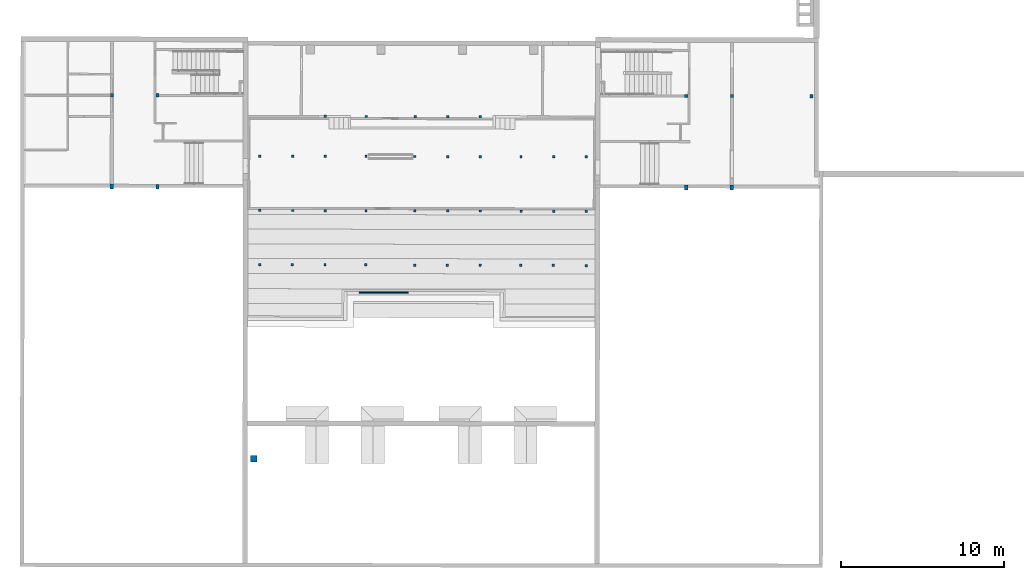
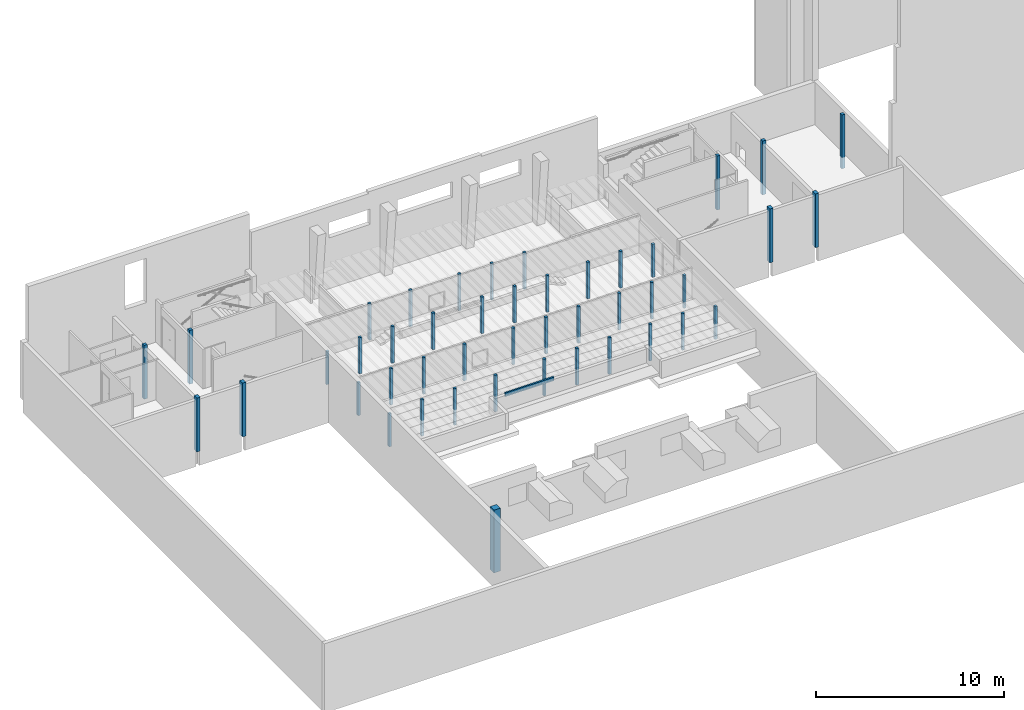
# One storey, part 1 of 24: 45 columns, 1 beam.
"""IFC2X3 building model written with IfcOpenShell, lengths in metres."""

from ifc_helpers import new_model, entity, si_unit, converted_unit, derived_unit, direction, frame, frame_2d, origin, origin_2d_with_axis, place, context, subcontext, project, spatial, rectangle, extrude, source, transform, mapped, material, type_object, type_shapes, element, save


model = new_model("IFC2X3")

# Units and contexts
model_context = context("Model", 3, precision=1e-05, world=origin(), true_north=direction((6.123233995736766e-17, 1.0)))
body_context = subcontext(model_context, "Body", "Model", "MODEL_VIEW")
ifc_project = project(units=[si_unit("LENGTHUNIT", "METRE"), si_unit("AREAUNIT", "SQUARE_METRE"), converted_unit("PLANEANGLEUNIT", "DEGREE", entity("IfcPlaneAngleMeasure", 0.017453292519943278), si_unit("PLANEANGLEUNIT", "RADIAN"), dimensions=[0, 0, 0, 0, 0, 0, 0]), derived_unit("THERMALTRANSMITTANCEUNIT", [(si_unit("MASSUNIT", "GRAM", prefix="KILO"), 1), (si_unit("THERMODYNAMICTEMPERATUREUNIT", "KELVIN"), -1), (si_unit("TIMEUNIT", "SECOND"), -3)])], contexts=[model_context])

# Site, building, storey
site_placement = place(None, frame((1253.6752467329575, 2072.143113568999, 91.49999999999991), z_axis=(0.0, 0.0, 1.0), x_axis=(0.7237211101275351, 0.6900925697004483, 0.0)))
site = spatial("IfcSite", under=ifc_project, at=site_placement, Name="Surface", CompositionType="ELEMENT")
building_placement = place(site_placement, origin())
building = spatial("IfcBuilding", under=site, at=building_placement, CompositionType="ELEMENT")
storey_placement = place(building_placement, frame((0.0, 0.0, -7.049999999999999)))
storey = spatial("IfcBuildingStorey", under=building, at=storey_placement, Name="R-1", CompositionType="ELEMENT", Elevation=-7.049999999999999)

# Columns
ifc_material_1 = material(Name="<Unnamed>")
column_type_1 = type_object("IfcColumnType", Name="ART-Béton-Poteau rectangulaire:20X20", PredefinedType="COLUMN", material=ifc_material_1)
shared_shape_1 = source(origin(), body_context, "Body", "SweptSolid", [
    extrude(rectangle(XDim=0.1999999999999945, YDim=0.20000000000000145, at=frame_2d((1.2871648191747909e-14, 1.1601830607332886e-14), x_axis=(1.0, 0.0))), frame((198.74440040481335, -8.334362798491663, -7.049999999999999), z_axis=(0.0, 0.0, 1.0), x_axis=(-0.721921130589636, 0.6919753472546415, 0.0)), (0.0, 0.0, 1.0), 3.4999999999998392),
])
type_shapes(column_type_1, [shared_shape_1])
column_1_placement = place(storey_placement, frame((0.0, 0.0, 7.049999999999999)))
element("IfcColumn", 1, at=column_1_placement, inside=storey, type_object=column_type_1, material=ifc_material_1, Name="ART-Béton-Poteau rectangulaire:20X20", ObjectType="ART-Béton-Poteau rectangulaire:20X20", context=body_context, shape_type="MappedRepresentation", body=[
    mapped(shared_shape_1, transform((0.0, 0.0, 0.0), scale=1.0)),
])
column_type_2 = type_object("IfcColumnType", Name="ART-Béton-Poteau rectangulaire:20X20", PredefinedType="COLUMN", material=ifc_material_1)
shared_shape_2 = source(origin(), body_context, "Body", "SweptSolid", [
    extrude(rectangle(XDim=0.2000000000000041, YDim=0.19999999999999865, at=frame_2d((1.8735013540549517e-16, -1.942890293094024e-16), x_axis=(1.0, 0.0))), frame((193.19998534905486, -3.0347104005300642, -7.049999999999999), z_axis=(0.0, 0.0, 1.0), x_axis=(-0.7228702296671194, 0.6909838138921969, 0.0)), (0.0, 0.0, 1.0), 3.4999999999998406),
])
type_shapes(column_type_2, [shared_shape_2])
column_2_placement = place(storey_placement, frame((0.0, 0.0, 7.049999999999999)))
element("IfcColumn", 2, at=column_2_placement, inside=storey, type_object=column_type_2, material=ifc_material_1, Name="ART-Béton-Poteau rectangulaire:20X20", ObjectType="ART-Béton-Poteau rectangulaire:20X20", context=body_context, shape_type="MappedRepresentation", body=[
    mapped(shared_shape_2, transform((0.0, 0.0, 0.0), scale=1.0)),
])
column_type_3 = type_object("IfcColumnType", Name="ART-Béton-Poteau rectangulaire:20X20", PredefinedType="COLUMN", material=ifc_material_1)
shared_shape_3 = source(origin(), body_context, "Body", "SweptSolid", [
    extrude(rectangle(XDim=0.20000000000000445, YDim=0.19999999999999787, at=origin_2d_with_axis()), frame((195.2240219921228, -4.9694650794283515, -7.049999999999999), z_axis=(0.0, 0.0, 1.0), x_axis=(-0.722870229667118, 0.6909838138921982, 0.0)), (0.0, 0.0, 1.0), 3.4999999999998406),
])
type_shapes(column_type_3, [shared_shape_3])
column_3_placement = place(storey_placement, frame((0.0, 0.0, 7.049999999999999)))
element("IfcColumn", 3, at=column_3_placement, inside=storey, type_object=column_type_3, material=ifc_material_1, Name="ART-Béton-Poteau rectangulaire:20X20", ObjectType="ART-Béton-Poteau rectangulaire:20X20", context=body_context, shape_type="MappedRepresentation", body=[
    mapped(shared_shape_3, transform((0.0, 0.0, 0.0), scale=1.0)),
])
column_type_4 = type_object("IfcColumnType", Name="ART-Béton-Poteau rectangulaire:20X30", PredefinedType="COLUMN", material=ifc_material_1)
shared_shape_4 = source(origin(), body_context, "Body", "SweptSolid", [
    extrude(rectangle(XDim=0.20000000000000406, YDim=0.3000000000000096, at=origin_2d_with_axis()), frame((189.33047599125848, -7.082783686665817, -7.049999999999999), z_axis=(0.0, 0.0, 1.0), x_axis=(-0.7228702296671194, 0.6909838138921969, 0.0)), (0.0, 0.0, 1.0), 3.4999999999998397),
])
type_shapes(column_type_4, [shared_shape_4])
column_4_placement = place(storey_placement, frame((0.0, 0.0, 7.049999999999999)))
element("IfcColumn", 4, at=column_4_placement, inside=storey, type_object=column_type_4, material=ifc_material_1, Name="ART-Béton-Poteau rectangulaire:20X30", ObjectType="ART-Béton-Poteau rectangulaire:20X30", context=body_context, shape_type="MappedRepresentation", body=[
    mapped(shared_shape_4, transform((0.0, 0.0, 0.0), scale=1.0)),
])
column_type_5 = type_object("IfcColumnType", Name="ART-Béton-Poteau rectangulaire:20X30", PredefinedType="COLUMN", material=ifc_material_1)
shared_shape_5 = source(origin(), body_context, "Body", "SweptSolid", [
    extrude(rectangle(XDim=0.20000000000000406, YDim=0.3000000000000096, at=origin_2d_with_axis()), frame((191.35451263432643, -9.017538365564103, -7.049999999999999), z_axis=(0.0, 0.0, 1.0), x_axis=(-0.7228702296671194, 0.6909838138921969, 0.0)), (0.0, 0.0, 1.0), 3.4999999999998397),
])
type_shapes(column_type_5, [shared_shape_5])
column_5_placement = place(storey_placement, frame((0.0, 0.0, 7.049999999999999)))
element("IfcColumn", 5, at=column_5_placement, inside=storey, type_object=column_type_5, material=ifc_material_1, Name="ART-Béton-Poteau rectangulaire:20X30", ObjectType="ART-Béton-Poteau rectangulaire:20X30", context=body_context, shape_type="MappedRepresentation", body=[
    mapped(shared_shape_5, transform((0.0, 0.0, 0.0), scale=1.0)),
])
column_type_6 = type_object("IfcColumnType", Name="ART-Béton-Poteau rectangulaire:40x40", PredefinedType="COLUMN", material=ifc_material_1)
shared_shape_6 = source(origin(), body_context, "Body", "SweptSolid", [
    extrude(rectangle(XDim=0.40000000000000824, YDim=0.3999999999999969, at=frame_2d((8.326672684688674e-17, -8.326672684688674e-17), x_axis=(1.0, 0.0))), frame((158.67348923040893, -0.8323143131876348, -7.7799999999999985), z_axis=(0.0, 0.0, 1.0), x_axis=(-0.7228702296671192, 0.690983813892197, 0.0)), (0.0, 0.0, 1.0), 4.079999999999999),
])
type_shapes(column_type_6, [shared_shape_6])
column_6_placement = place(storey_placement, frame((0.0, 0.0, 7.049999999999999)))
element("IfcColumn", 6, at=column_6_placement, inside=storey, type_object=column_type_6, material=ifc_material_1, Name="ART-Béton-Poteau rectangulaire:40x40", ObjectType="ART-Béton-Poteau rectangulaire:40x40", context=body_context, shape_type="MappedRepresentation", body=[
    mapped(shared_shape_6, transform((0.0, 0.0, 0.0), scale=1.0)),
])
column_type_7 = type_object("IfcColumnType", Name="ART-Béton-Poteau rectangulaire:20X20", PredefinedType="COLUMN", material=ifc_material_1)
shared_shape_7 = source(origin(), body_context, "Body", "SweptSolid", [
    extrude(rectangle(XDim=0.20000000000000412, YDim=0.1999999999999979, at=origin_2d_with_axis()), frame((169.77794912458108, 19.35335111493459, -7.049999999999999), z_axis=(0.0, 0.0, 1.0), x_axis=(-0.7228702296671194, 0.6909838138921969, 0.0)), (0.0, 0.0, 1.0), 3.4999999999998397),
])
type_shapes(column_type_7, [shared_shape_7])
column_7_placement = place(storey_placement, frame((0.0, 0.0, 7.049999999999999)))
element("IfcColumn", 7, at=column_7_placement, inside=storey, type_object=column_type_7, material=ifc_material_1, Name="ART-Béton-Poteau rectangulaire:20X20", ObjectType="ART-Béton-Poteau rectangulaire:20X20", context=body_context, shape_type="MappedRepresentation", body=[
    mapped(shared_shape_7, transform((0.0, 0.0, 0.0), scale=1.0)),
])
column_type_8 = type_object("IfcColumnType", Name="ART-Béton-Poteau rectangulaire:20X30", PredefinedType="COLUMN", material=ifc_material_1)
shared_shape_8 = source(origin(), body_context, "Body", "SweptSolid", [
    extrude(rectangle(XDim=0.19999999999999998, YDim=0.2999999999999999, at=origin_2d_with_axis()), frame((0.0, 0.0, -7.049999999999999), z_axis=(0.0, 0.0, 1.0), x_axis=(-1.0, 0.0, 0.0)), (0.0, 0.0, 1.0), 3.4999999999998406),
])
type_shapes(column_type_8, [shared_shape_8])
for number, where, z_axis, x_axis in (
    (8, (163.88544390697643, 17.239846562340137, 7.049999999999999), (0.0, 0.0, 1.0), (0.7228702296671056, -0.6909838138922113, 0.0)),
    (9, (165.90948055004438, 15.305091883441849, 7.049999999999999), (0.0, 0.0, 1.0), (0.7228702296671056, -0.6909838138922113, 0.0)),
):
    element("IfcColumn", number, at=place(storey_placement, frame(where, z_axis=z_axis, x_axis=x_axis)), inside=storey, type_object=column_type_8, material=ifc_material_1, Name="ART-Béton-Poteau rectangulaire:20X30", ObjectType="ART-Béton-Poteau rectangulaire:20X30", context=body_context, shape_type="MappedRepresentation", body=[
        mapped(shared_shape_8, transform((0.0, 0.0, 0.0), scale=1.0)),
    ])
column_type_9 = type_object("IfcColumnType", Name="ART-Béton-Poteau rectangulaire:20X20", PredefinedType="COLUMN", material=ifc_material_1)
shared_shape_9 = source(origin(), body_context, "Body", "SweptSolid", [
    extrude(rectangle(XDim=0.20000000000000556, YDim=0.19999999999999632, at=origin_2d_with_axis()), frame((167.75495790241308, 21.287919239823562, -7.049999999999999), z_axis=(0.0, 0.0, 1.0), x_axis=(-0.7228702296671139, 0.6909838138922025, 0.0)), (0.0, 0.0, 1.0), 3.4999999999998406),
])
type_shapes(column_type_9, [shared_shape_9])
column_8_placement = place(storey_placement, frame((0.0, 0.0, 7.049999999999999)))
element("IfcColumn", 10, at=column_8_placement, inside=storey, type_object=column_type_9, material=ifc_material_1, Name="ART-Béton-Poteau rectangulaire:20X20", ObjectType="ART-Béton-Poteau rectangulaire:20X20", context=body_context, shape_type="MappedRepresentation", body=[
    mapped(shared_shape_9, transform((0.0, 0.0, 0.0), scale=1.0)),
])
ifc_material_2 = material(Name="Cerisier")
column_type_10 = type_object("IfcColumnType", Name="ART-Béton-Poteau rectangulaire:15x15", PredefinedType="COLUMN", material=ifc_material_2)
shared_shape_10 = source(origin(), body_context, "Body", "SweptSolid", [
    extrude(rectangle(XDim=0.14999999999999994, YDim=0.14999999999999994, at=origin_2d_with_axis()), frame((0.0, 0.0, -7.049999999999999), z_axis=(0.0, 0.0, 1.0), x_axis=(-1.0, 0.0, 0.0)), (0.0, 0.0, 1.0), 2.36),
])
type_shapes(column_type_10, [shared_shape_10])
for number, where, z_axis, x_axis in (
    (11, (173.19281378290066, 10.945442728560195, 7.049999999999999), (0.0, 0.0, 1.0), (0.721921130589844, -0.6919753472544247, 0.0)),
    (12, (170.89570816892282, 8.535858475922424, 7.049999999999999), (0.0, 0.0, 1.0), (0.7219211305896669, -0.6919753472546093, 0.0)),
    (13, (168.59210210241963, 6.138715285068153, 7.049999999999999), (0.0, 0.0, 1.0), (0.7219211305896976, -0.6919753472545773, 0.0)),
):
    element("IfcColumn", number, at=place(storey_placement, frame(where, z_axis=z_axis, x_axis=x_axis)), inside=storey, type_object=column_type_10, material=ifc_material_2, Name="ART-Béton-Poteau rectangulaire:15x15", ObjectType="ART-Béton-Poteau rectangulaire:15x15", context=body_context, shape_type="MappedRepresentation", body=[
        mapped(shared_shape_10, transform((0.0, 0.0, 0.0), scale=1.0)),
    ])
column_type_11 = type_object("IfcColumnType", Name="ART-Béton-Poteau rectangulaire:15x15", PredefinedType="COLUMN", material=ifc_material_2)
shared_shape_11 = source(origin(), body_context, "Body", "SweptSolid", [
    extrude(rectangle(XDim=0.14999999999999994, YDim=0.14999999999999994, at=origin_2d_with_axis()), frame((0.0, 0.0, -7.049999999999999), z_axis=(0.0, 0.0, 1.0), x_axis=(-1.0, 0.0, 0.0)), (0.0, 0.0, 1.0), 2.385),
])
type_shapes(column_type_11, [shared_shape_11])
for number, where, z_axis, x_axis in (
    (14, (176.4414588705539, 7.831553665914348, 7.049999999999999), (0.0, 0.0, 1.0), (0.7219211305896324, -0.6919753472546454, 0.0)),
    (15, (178.60722226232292, 5.755627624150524, 7.049999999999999), (0.0, 0.0, 1.0), (0.7219211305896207, -0.6919753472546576, 0.0)),
    (16, (180.0510680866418, 4.371680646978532, 7.049999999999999), (0.0, 0.0, 1.0), (0.7219211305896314, -0.6919753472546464, 0.0)),
    (17, (181.4949067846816, 2.987726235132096, 7.049999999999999), (0.0, 0.0, 1.0), (0.721921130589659, -0.6919753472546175, 0.0)),
    (18, (184.7435518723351, -0.12616282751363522, 7.049999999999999), (0.0, 0.0, 1.0), (0.7219211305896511, -0.6919753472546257, 0.0)),
    (19, (174.14380721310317, 5.422492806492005, 7.049999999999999), (0.0, 0.0, 1.0), (0.7219211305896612, -0.6919753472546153, 0.0)),
    (20, (176.31011664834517, 3.346043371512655, 7.049999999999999), (0.0, 0.0, 1.0), (0.7219211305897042, -0.6919753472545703, 0.0)),
    (21, (177.75395890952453, 1.9620926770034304, 7.049999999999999), (0.0, 0.0, 1.0), (0.7219211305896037, -0.6919753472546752, 0.0)),
    (22, (179.19780760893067, 0.5781486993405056, 7.049999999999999), (0.0, 0.0, 1.0), (0.7219211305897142, -0.69197534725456, 0.0)),
    (23, (182.44644625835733, -2.535747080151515, 7.049999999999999), (0.0, 0.0, 1.0), (0.7219211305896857, -0.6919753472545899, 0.0)),
    (24, (171.84074075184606, 3.0248195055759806, 7.049999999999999), (0.0, 0.0, 1.0), (0.7219211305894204, -0.6919753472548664, 0.0)),
    (25, (174.00650414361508, 0.9488934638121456, 7.049999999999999), (0.0, 0.0, 1.0), (0.7219211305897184, -0.6919753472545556, 0.0)),
    (26, (175.4503464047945, -0.43505723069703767, 7.049999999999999), (0.0, 0.0, 1.0), (0.7219211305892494, -0.691975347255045, 0.0)),
    (27, (176.8941886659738, -1.8190079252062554, 7.049999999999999), (0.0, 0.0, 1.0), (0.7219211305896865, -0.6919753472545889, 0.0)),
    (28, (180.14282860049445, -4.932904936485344, 7.049999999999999), (0.0, 0.0, 1.0), (0.7219211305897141, -0.6919753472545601, 0.0)),
    (29, (176.3320090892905, 11.32462847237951, 7.049999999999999), (0.0, 0.0, 1.0), (0.7219211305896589, -0.6919753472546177, 0.0)),
    (30, (178.13681191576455, 9.594690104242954, 7.049999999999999), (0.0, 0.0, 1.0), (0.7219211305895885, -0.6919753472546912, 0.0)),
    (31, (180.30257530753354, 7.518764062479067, 7.049999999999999), (0.0, 0.0, 1.0), (0.7219211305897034, -0.6919753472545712, 0.0)),
    (32, (181.74641756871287, 6.134813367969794, 7.049999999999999), (0.0, 0.0, 1.0), (0.7219211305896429, -0.6919753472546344, 0.0)),
    (33, (183.1902598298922, 4.750862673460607, 7.049999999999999), (0.0, 0.0, 1.0), (0.7219211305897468, -0.691975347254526, 0.0)),
    (34, (174.63649512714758, 9.56132415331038, 7.049999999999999), (0.0, 0.0, 1.0), (0.7219211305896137, -0.6919753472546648, 0.0)),
    (35, (172.33955043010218, 7.15190778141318, 7.049999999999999), (0.0, 0.0, 1.0), (0.7219211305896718, -0.6919753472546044, 0.0)),
    (36, (170.03593792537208, 4.754757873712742, 7.049999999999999), (0.0, 0.0, 1.0), (0.7219211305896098, -0.6919753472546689, 0.0)),
    (37, (183.29970961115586, 1.2577878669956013, 7.049999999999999), (0.0, 0.0, 1.0), (0.721921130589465, -0.6919753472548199, 0.0)),
    (38, (181.002603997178, -1.1517963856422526, 7.049999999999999), (0.0, 0.0, 1.0), (0.7219211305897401, -0.6919753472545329, 0.0)),
    (39, (178.69898633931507, -3.548954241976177, 7.049999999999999), (0.0, 0.0, 1.0), (0.7219211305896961, -0.6919753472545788, 0.0)),
):
    element("IfcColumn", number, at=place(storey_placement, frame(where, z_axis=z_axis, x_axis=x_axis)), inside=storey, type_object=column_type_11, material=ifc_material_2, Name="ART-Béton-Poteau rectangulaire:15x15", ObjectType="ART-Béton-Poteau rectangulaire:15x15", context=body_context, shape_type="MappedRepresentation", body=[
        mapped(shared_shape_11, transform((0.0, 0.0, 0.0), scale=1.0)),
    ])
column_type_12 = type_object("IfcColumnType", Name="ART-Béton-Poteau rectangulaire:15x15", PredefinedType="COLUMN", material=ifc_material_2)
shared_shape_12 = source(origin(), body_context, "Body", "SweptSolid", [
    extrude(rectangle(XDim=0.14999999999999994, YDim=0.14999999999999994, at=origin_2d_with_axis()), frame((0.0, 0.0, -7.049999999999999), z_axis=(0.0, 0.0, 1.0), x_axis=(-1.0, 0.0, 0.0)), (0.0, 0.0, 1.0), 2.1449999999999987),
])
type_shapes(column_type_12, [shared_shape_12])
for number, where, z_axis, x_axis in (
    (40, (171.74891202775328, 12.329450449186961, 7.049999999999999), (0.0, 0.0, 1.0), (0.7219211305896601, -0.6919753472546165, 0.0)),
    (41, (186.1892308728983, -1.5081972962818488, 7.049999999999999), (0.0, 0.0, 1.0), (0.7219211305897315, -0.6919753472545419, 0.0)),
    (42, (169.45397180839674, 9.922006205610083, 7.049999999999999), (0.0, 0.0, 1.0), (0.7219211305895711, -0.6919753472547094, 0.0)),
    (43, (183.89239228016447, -3.9175029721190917, 7.049999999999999), (0.0, 0.0, 1.0), (0.7219211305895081, -0.691975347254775, 0.0)),
    (44, (167.14825340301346, 7.522659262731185, 7.049999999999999), (0.0, 0.0, 1.0), (0.721921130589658, -0.6919753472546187, 0.0)),
    (45, (181.58667086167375, -6.316855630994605, 7.049999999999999), (0.0, 0.0, 1.0), (0.7219211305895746, -0.6919753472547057, 0.0)),
):
    element("IfcColumn", number, at=place(storey_placement, frame(where, z_axis=z_axis, x_axis=x_axis)), inside=storey, type_object=column_type_12, material=ifc_material_2, Name="ART-Béton-Poteau rectangulaire:15x15", ObjectType="ART-Béton-Poteau rectangulaire:15x15", context=body_context, shape_type="MappedRepresentation", body=[
        mapped(shared_shape_12, transform((0.0, 0.0, 0.0), scale=1.0)),
    ])

# Beam
ifc_material_3 = material(Name="Bois - Bois de construction de dimensions courantes")
beam_type = type_object("IfcBeamType", Name="Basting:poutre BLC GL24h 100x240", PredefinedType="BEAM")
beam_placement = place(storey_placement, frame((170.3821924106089, 2.0804351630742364, 2.360000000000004), z_axis=(0.0, 0.0, 1.0), x_axis=(0.7228704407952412, -0.6909835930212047, 0.0)))
element("IfcBeam", 46, at=beam_placement, inside=storey, type_object=beam_type, material=ifc_material_3, Name="Basting:poutre BLC GL24h 100x240", ObjectType="Basting:poutre BLC GL24h 100x240", context=body_context, shape_type="SweptSolid", body=[
    extrude(rectangle(XDim=0.24000000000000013, YDim=0.09999999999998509, at=frame_2d((-2.7755575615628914e-16, 9.71445146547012e-17), x_axis=(1.0, 0.0))), frame((0.0, 0.0, -0.1200000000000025), z_axis=(1.0, 0.0, 0.0), x_axis=(0.0, 0.0, -1.0)), (0.0, 0.0, 1.0), 3.0037928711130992),
])

save(model, "model.ifc")
